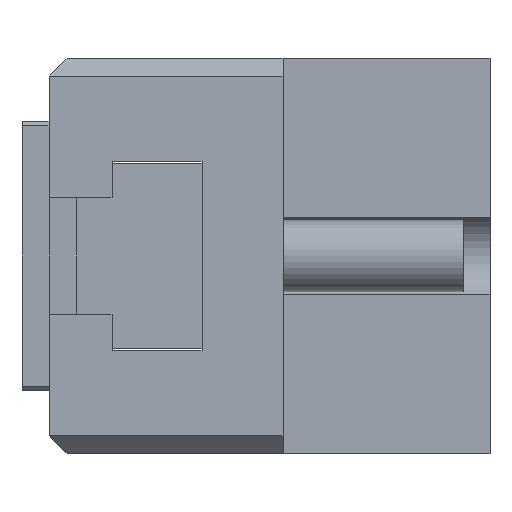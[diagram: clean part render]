
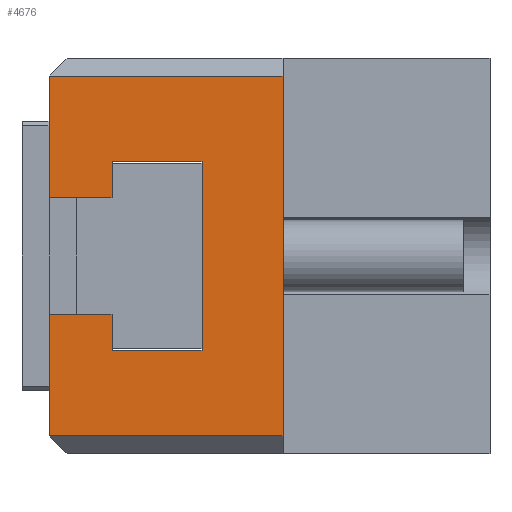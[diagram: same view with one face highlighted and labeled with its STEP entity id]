
A CAD part, left-side view. The second image highlights one B-rep face of the part: STEP entity #4676.
In plain terms, the highlighted planar face has unit normal (-1, 0, 0).
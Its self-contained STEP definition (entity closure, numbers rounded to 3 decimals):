
#55 = CARTESIAN_POINT ( 'NONE',  ( -40., 42., -6.5 ) ) ;
#224 = DIRECTION ( 'NONE',  ( 0., 1., 0. ) ) ;
#470 = LINE ( 'NONE', #839, #40250 ) ;
#537 = VECTOR ( 'NONE', #26722, 1000. ) ;
#839 = CARTESIAN_POINT ( 'NONE',  ( -40., 42., 22. ) ) ;
#1786 = LINE ( 'NONE', #22678, #537 ) ;
#2801 = LINE ( 'NONE', #25773, #41332 ) ;
#3401 = EDGE_CURVE ( 'NONE', #10705, #20670, #41720, .T. ) ;
#3737 = ORIENTED_EDGE ( 'NONE', *, *, #4104, .F. ) ;
#4094 = CARTESIAN_POINT ( 'NONE',  ( -40., 49., 22. ) ) ;
#4104 = EDGE_CURVE ( 'NONE', #42826, #38324, #5590, .T. ) ;
#4556 = CARTESIAN_POINT ( 'NONE',  ( -40., 49., -6.5 ) ) ;
#4676 = ADVANCED_FACE ( 'NONE', ( #23004 ), #10892, .F. ) ;
#4717 = DIRECTION ( 'NONE',  ( 0., 0., -1. ) ) ;
#5541 = VECTOR ( 'NONE', #34697, 1000. ) ;
#5590 = LINE ( 'NONE', #13610, #26062 ) ;
#7363 = ORIENTED_EDGE ( 'NONE', *, *, #39971, .F. ) ;
#9270 = LINE ( 'NONE', #4094, #37497 ) ;
#9746 = DIRECTION ( 'NONE',  ( 0., -1., 0. ) ) ;
#10161 = EDGE_CURVE ( 'NONE', #15295, #47240, #33036, .T. ) ;
#10191 = CARTESIAN_POINT ( 'NONE',  ( -40., 32., 10.5 ) ) ;
#10705 = VERTEX_POINT ( 'NONE', #11202 ) ;
#10892 = PLANE ( 'NONE',  #24634 ) ;
#11202 = CARTESIAN_POINT ( 'NONE',  ( -40., 42., 6.5 ) ) ;
#12714 = CARTESIAN_POINT ( 'NONE',  ( -40., 49., 20. ) ) ;
#13610 = CARTESIAN_POINT ( 'NONE',  ( -40., 49., -6.5 ) ) ;
#13652 = DIRECTION ( 'NONE',  ( 0., -1., 0. ) ) ;
#13887 = LINE ( 'NONE', #17230, #43358 ) ;
#14076 = CARTESIAN_POINT ( 'NONE',  ( -40., 49., 6.5 ) ) ;
#15259 = CARTESIAN_POINT ( 'NONE',  ( -40., 32., 22. ) ) ;
#15295 = VERTEX_POINT ( 'NONE', #42552 ) ;
#17129 = CARTESIAN_POINT ( 'NONE',  ( -40., 23., 20. ) ) ;
#17230 = CARTESIAN_POINT ( 'NONE',  ( -40., 42., 22. ) ) ;
#20670 = VERTEX_POINT ( 'NONE', #14076 ) ;
#21372 = EDGE_CURVE ( 'NONE', #22687, #23604, #45359, .T. ) ;
#21669 = VERTEX_POINT ( 'NONE', #27054 ) ;
#21829 = VECTOR ( 'NONE', #31549, 1000. ) ;
#21904 = VERTEX_POINT ( 'NONE', #43682 ) ;
#22240 = ORIENTED_EDGE ( 'NONE', *, *, #46475, .F. ) ;
#22248 = EDGE_CURVE ( 'NONE', #42826, #21904, #9270, .T. ) ;
#22510 = CARTESIAN_POINT ( 'NONE',  ( -40., 49., 22. ) ) ;
#22603 = EDGE_CURVE ( 'NONE', #47240, #46990, #30286, .T. ) ;
#22678 = CARTESIAN_POINT ( 'NONE',  ( -40., 49., 22. ) ) ;
#22687 = VERTEX_POINT ( 'NONE', #12714 ) ;
#23004 = FACE_OUTER_BOUND ( 'NONE', #33809, .T. ) ;
#23304 = CARTESIAN_POINT ( 'NONE',  ( -40., 49., 10.5 ) ) ;
#23604 = VERTEX_POINT ( 'NONE', #17129 ) ;
#23735 = VECTOR ( 'NONE', #13652, 1000. ) ;
#24634 = AXIS2_PLACEMENT_3D ( 'NONE', #22510, #49398, #26384 ) ;
#25554 = ORIENTED_EDGE ( 'NONE', *, *, #22248, .T. ) ;
#25773 = CARTESIAN_POINT ( 'NONE',  ( -40., 49., -20. ) ) ;
#25938 = EDGE_CURVE ( 'NONE', #40911, #23604, #47675, .T. ) ;
#26062 = VECTOR ( 'NONE', #9746, 1000. ) ;
#26384 = DIRECTION ( 'NONE',  ( 0., 0., -1. ) ) ;
#26722 = DIRECTION ( 'NONE',  ( 0., 0., 1. ) ) ;
#27054 = CARTESIAN_POINT ( 'NONE',  ( -40., 42., -10.5 ) ) ;
#27108 = EDGE_CURVE ( 'NONE', #46990, #10705, #13887, .T. ) ;
#30286 = LINE ( 'NONE', #23304, #41708 ) ;
#31506 = VECTOR ( 'NONE', #41326, 1000. ) ;
#31549 = DIRECTION ( 'NONE',  ( 0., -1., 0. ) ) ;
#31772 = CARTESIAN_POINT ( 'NONE',  ( -40., 23., -20. ) ) ;
#33036 = LINE ( 'NONE', #15259, #40873 ) ;
#33809 = EDGE_LOOP ( 'NONE', ( #3737, #25554, #22240, #39171, #35462, #7363, #39137, #40671, #34799, #38882, #42601, #45731 ) ) ;
#34697 = DIRECTION ( 'NONE',  ( 0., 0., 1. ) ) ;
#34799 = ORIENTED_EDGE ( 'NONE', *, *, #22603, .F. ) ;
#35462 = ORIENTED_EDGE ( 'NONE', *, *, #21372, .F. ) ;
#36195 = EDGE_CURVE ( 'NONE', #21669, #15295, #39883, .T. ) ;
#37497 = VECTOR ( 'NONE', #46493, 1000. ) ;
#38324 = VERTEX_POINT ( 'NONE', #55 ) ;
#38822 = CARTESIAN_POINT ( 'NONE',  ( -40., 42., 10.5 ) ) ;
#38882 = ORIENTED_EDGE ( 'NONE', *, *, #10161, .F. ) ;
#39137 = ORIENTED_EDGE ( 'NONE', *, *, #3401, .F. ) ;
#39171 = ORIENTED_EDGE ( 'NONE', *, *, #25938, .T. ) ;
#39883 = LINE ( 'NONE', #47177, #21829 ) ;
#39971 = EDGE_CURVE ( 'NONE', #20670, #22687, #1786, .T. ) ;
#40250 = VECTOR ( 'NONE', #4717, 1000. ) ;
#40671 = ORIENTED_EDGE ( 'NONE', *, *, #27108, .F. ) ;
#40873 = VECTOR ( 'NONE', #46019, 1000. ) ;
#40911 = VERTEX_POINT ( 'NONE', #31772 ) ;
#41326 = DIRECTION ( 'NONE',  ( 0., 1., 0. ) ) ;
#41332 = VECTOR ( 'NONE', #45086, 1000. ) ;
#41485 = CARTESIAN_POINT ( 'NONE',  ( -40., 49., 6.5 ) ) ;
#41708 = VECTOR ( 'NONE', #224, 1000. ) ;
#41720 = LINE ( 'NONE', #41485, #31506 ) ;
#42552 = CARTESIAN_POINT ( 'NONE',  ( -40., 32., -10.5 ) ) ;
#42601 = ORIENTED_EDGE ( 'NONE', *, *, #36195, .F. ) ;
#42826 = VERTEX_POINT ( 'NONE', #4556 ) ;
#43358 = VECTOR ( 'NONE', #47996, 1000. ) ;
#43682 = CARTESIAN_POINT ( 'NONE',  ( -40., 49., -20. ) ) ;
#44229 = CARTESIAN_POINT ( 'NONE',  ( -40., 49., 20. ) ) ;
#44552 = EDGE_CURVE ( 'NONE', #38324, #21669, #470, .T. ) ;
#45086 = DIRECTION ( 'NONE',  ( 0., 1., 0. ) ) ;
#45359 = LINE ( 'NONE', #44229, #23735 ) ;
#45731 = ORIENTED_EDGE ( 'NONE', *, *, #44552, .F. ) ;
#46019 = DIRECTION ( 'NONE',  ( 0., 0., 1. ) ) ;
#46475 = EDGE_CURVE ( 'NONE', #40911, #21904, #2801, .T. ) ;
#46493 = DIRECTION ( 'NONE',  ( 0., 0., -1. ) ) ;
#46990 = VERTEX_POINT ( 'NONE', #38822 ) ;
#47177 = CARTESIAN_POINT ( 'NONE',  ( -40., 49., -10.5 ) ) ;
#47240 = VERTEX_POINT ( 'NONE', #10191 ) ;
#47675 = LINE ( 'NONE', #49835, #5541 ) ;
#47996 = DIRECTION ( 'NONE',  ( 0., 0., -1. ) ) ;
#49398 = DIRECTION ( 'NONE',  ( 1., 0., 0. ) ) ;
#49835 = CARTESIAN_POINT ( 'NONE',  ( -40., 23., 22. ) ) ;
